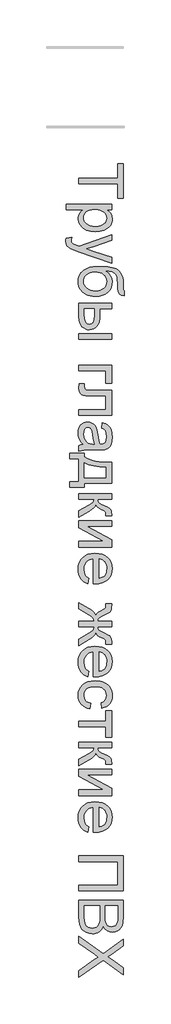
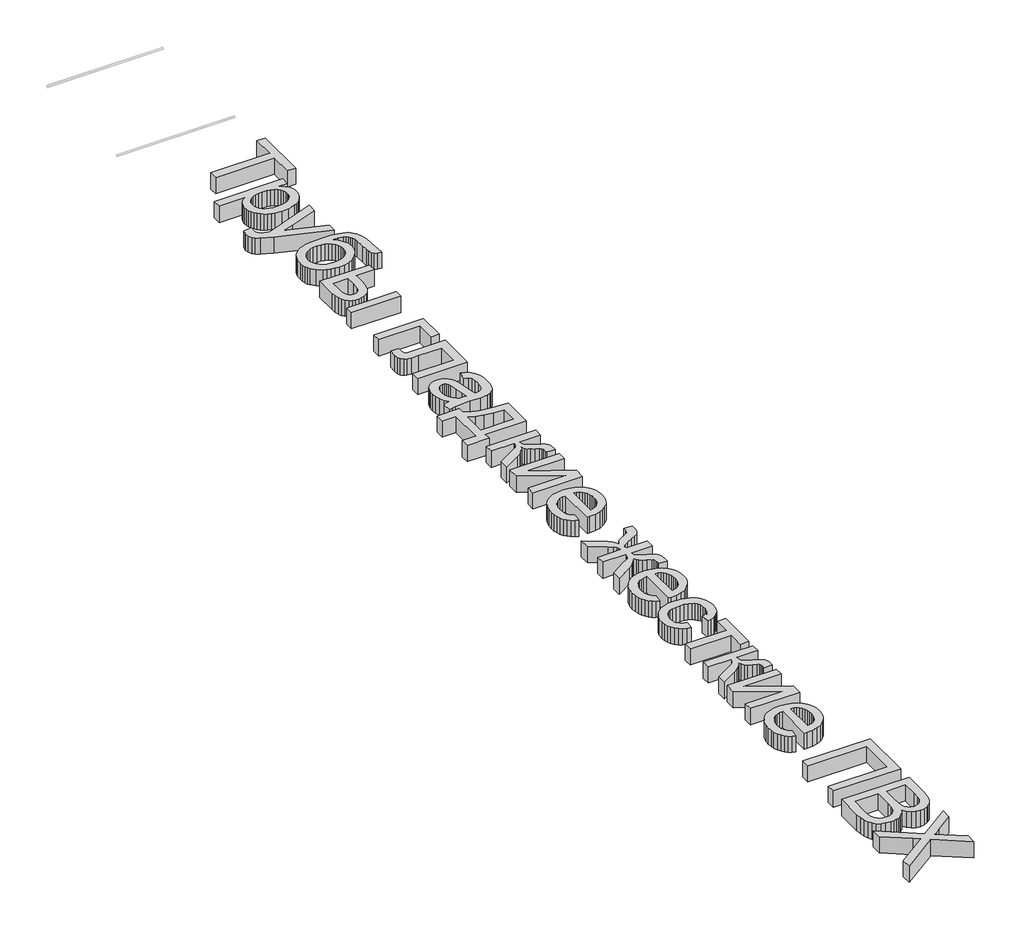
# One storey, part 31 of 33: 1 proxy.
"""IFC4 building model written with IfcOpenShell, lengths in millimetres."""

from ifc_helpers import new_model, si_unit, origin, origin_with_axes, place, context, project, spatial, polyline, outline, extrude, element, save

model = new_model("IFC4")

# Units and contexts
model_context = context("Model", 3, world=origin())
ifc_project = project(units=[si_unit("LENGTHUNIT", "METRE", prefix="MILLI")], contexts=[model_context])

# Site, building, storey
site = spatial("IfcSite", under=ifc_project)
building = spatial("IfcBuilding", under=site)
storey = spatial("IfcBuildingStorey", under=building, Name="Уровень 1", Elevation=0.0)

# Proxy
placement = place(None, origin())
element("IfcBuildingElementProxy", 1, Name="Надпись на модели 1", ObjectType="Надпись на модели 1", at=placement, inside=storey, context=model_context, shape_type="SweptSolid", body=[
    extrude(outline(polyline([(108024.4625724, -714.6440607), (108541.3856493, -714.6440607), (108541.3856493, -520.7979069), (108615.2318032, -520.7979069), (108615.2318032, -982.3363684), (108541.3856493, -982.3363684), (108541.3856493, -788.4902146), (108024.4625724, -788.4902146), (108024.4625724, -714.6440607)])), origin_with_axes(), (0.0, 0.0, 1.0), 150.0),
    extrude(outline(polyline([(107858.3087262, -1056.1825223), (108458.3087262, -1056.1825223), (108458.3087262, -1130.0286761), (108385.9048801, -1130.0286761), (108421.6200243, -1154.1152146), (108447.1308416, -1181.0863684), (108462.437332, -1212.5286761), (108467.5394955, -1250.0286761), (108465.7546397, -1275.7828829), (108460.4000724, -1299.96858), (108451.4757936, -1322.5857675), (108438.9818032, -1343.6344454), (108423.2426205, -1362.6548781), (108404.5827647, -1379.18733), (108383.0022359, -1393.2318011), (108358.5010339, -1404.7882915), (108304.0899762, -1420.2570415), (108244.702957, -1425.4132915), (108181.5479089, -1419.5899742), (108152.4718873, -1412.3108276), (108125.0635339, -1402.1200223), (108100.0394955, -1389.1572819), (108078.1164186, -1373.56233), (108059.2943032, -1355.3351665), (108043.5731493, -1334.4757915), (108031.1738104, -1312.007342), (108022.3171397, -1288.952955), (108017.0031373, -1265.3126305), (108015.2318032, -1241.0863684), (108019.9733897, -1207.1380511), (108034.1981493, -1176.8315607), (108055.6705051, -1150.8880511), (108082.1548801, -1130.0286761), (107858.3087262, -1130.0286761), (107858.3087262, -1056.1825223)]), holes=[polyline([(108237.9241109, -1130.0286761), (108202.3351686, -1132.0253708), (108171.7221878, -1138.015455), (108146.0851686, -1147.9989285), (108125.4241109, -1161.9757915), (108109.5226686, -1178.8012122), (108098.1644955, -1197.3303588), (108091.3495916, -1217.5632314), (108089.077957, -1239.49983), (108091.4307214, -1261.7519333), (108098.4890147, -1282.3543973), (108110.2528368, -1301.3072218), (108126.7221878, -1318.6104069), (108148.1314426, -1333.0289766), (108174.7149762, -1343.327955), (108206.4727887, -1349.507342), (108243.4048801, -1351.5671377), (108278.687332, -1349.5569213), (108309.2462262, -1343.5262723), (108335.0815628, -1333.4751906), (108356.1933416, -1319.4036761), (108372.5995916, -1302.5376906), (108384.3183416, -1284.1031954), (108391.3495916, -1264.1001906), (108393.6933416, -1242.5286761), (108391.2008537, -1221.0247699), (108383.7233897, -1200.7918973), (108371.2609498, -1181.8300583), (108353.8135339, -1164.1392531), (108331.6155171, -1149.2158756), (108304.9012743, -1138.5563204), (108273.6708056, -1132.1605872), (108237.9241109, -1130.0286761)])]), origin_with_axes(), (0.0, 0.0, 1.0), 150.0),
    extrude(outline(polyline([(107858.3087262, -1508.4902146), (107929.4144955, -1499.2594454), (107922.9241109, -1536.7594454), (107924.9613705, -1556.4830031), (107931.0731493, -1571.8075223), (107940.8267551, -1583.7426184), (107953.7894955, -1593.2979069), (108008.1644955, -1613.4902146), (108026.0491109, -1619.2594454), (108458.3087262, -1462.3363684), (108458.3087262, -1540.2209838), (108217.4433416, -1623.4421377), (108121.0971878, -1652.4325223), (108206.1933416, -1681.4229069), (108458.3087262, -1766.9517531), (108458.3087262, -1844.2594454), (108014.077957, -1693.24983), (107917.7318032, -1654.0190607), (107886.9745916, -1633.9349261), (107865.6644955, -1611.1825223), (107853.2245916, -1584.7522338), (107849.077957, -1553.6344454), (107851.3856493, -1532.2522338), (107858.3087262, -1508.4902146)])), origin_with_axes(), (0.0, 0.0, 1.0), 150.0),
    extrude(outline(polyline([(108624.4625724, -2210.0286761), (108624.4625724, -2274.6440607), (108589.3604089, -2267.6488684), (108566.8423801, -2255.6055992), (108553.5190628, -2238.9108877), (108546.0010339, -2217.9613684), (108542.5394955, -2183.8147338), (108541.3856493, -2127.5286761), (108537.1308416, -2052.4385319), (108531.812332, -2025.5349862), (108524.3664186, -2005.7257915), (108514.5767551, -1990.608604), (108502.2269955, -1977.78108), (108487.3171397, -1967.2432194), (108469.8471878, -1958.9950223), (108426.9745916, -1947.9433396), (108373.3568032, -1943.2017531), (108414.6068032, -1972.8952627), (108444.0298801, -2007.1680992), (108461.6620916, -2046.0563204), (108467.5394955, -2089.5959838), (108463.8030171, -2129.827354), (108452.593582, -2166.4349261), (108433.9111902, -2199.4187002), (108407.7558416, -2228.7786761), (108375.227296, -2252.8832434), (108337.4253128, -2270.1007915), (108294.3498921, -2280.4313204), (108246.0010339, -2283.87483), (108209.0148561, -2282.1665968), (108175.5082455, -2277.0418973), (108145.4812022, -2268.5007314), (108118.9337262, -2256.5430992), (108074.9613705, -2226.6693011), (108042.2750724, -2191.7113684), (108030.4436421, -2171.2666569), (108021.9926205, -2147.4325223), (108016.9220075, -2120.2089646), (108015.2318032, -2089.5959838), (108017.4087863, -2054.1828228), (108023.9397359, -2022.9433396), (108034.8246517, -1995.8775343), (108050.0635339, -1972.9854069), (108068.6963464, -1953.3925583), (108089.7630532, -1936.2245896), (108113.2636541, -1921.4815006), (108139.1981493, -1909.1632915), (108171.3841469, -1899.4457434), (108213.6392551, -1892.5046377), (108265.9634738, -1888.3399742), (108328.3568032, -1886.9517531), (108406.1107094, -1890.4538564), (108470.0455051, -1900.9601665), (108520.1611902, -1918.4706833), (108540.0368663, -1929.8525193), (108556.4577647, -1942.9854069), (108582.1714065, -1974.7657555), (108600.5382936, -2014.0731473), (108611.5584258, -2060.9075824), (108615.2318032, -2115.2690607), (108616.890457, -2197.4805992), (108619.6128128, -2205.5214646), (108624.4625724, -2210.0286761)]), holes=[polyline([(108248.3087262, -2210.0286761), (108278.8090267, -2208.0274742), (108306.4156974, -2202.0238684), (108331.1287383, -2192.0178588), (108352.9481493, -2178.0094454), (108370.774171, -2160.359205), (108383.5070436, -2139.4277146), (108391.1467671, -2115.2149742), (108393.6933416, -2087.7209838), (108391.0025363, -2059.0280752), (108382.9301205, -2033.8147338), (108369.476094, -2012.0809598), (108350.640457, -1993.8267531), (108327.3066229, -1979.3766329), (108300.3580051, -1969.0551184), (108269.7946037, -1962.8622098), (108235.6164186, -1960.7979069), (108202.1503729, -1963.0785559), (108172.8580051, -1969.9205031), (108147.7393152, -1981.3237482), (108126.7943032, -1997.2882915), (108110.2934017, -2016.5971857), (108098.5070436, -2038.0334838), (108091.4352287, -2061.5971857), (108089.077957, -2087.2882915), (108091.80482, -2113.3309598), (108099.9854089, -2136.7955031), (108113.6197238, -2157.6819213), (108132.7077647, -2175.9902146), (108156.2940027, -2190.8820415), (108183.4229089, -2201.5190607), (108214.0944835, -2207.9012723), (108248.3087262, -2210.0286761)])]), origin_with_axes(), (0.0, 0.0, 1.0), 150.0),
    extrude(outline(polyline([(108458.3087262, -2376.1825223), (108458.3087262, -2450.0286761), (108301.3856493, -2450.0286761), (108301.3856493, -2541.3267531), (108299.0734498, -2583.3384718), (108292.1368512, -2620.2390127), (108280.5758537, -2652.0283756), (108264.390457, -2678.7065607), (108244.1395556, -2699.8138324), (108220.3820436, -2714.890455), (108193.117921, -2723.9364285), (108162.3471878, -2726.9517531), (108134.8937623, -2724.4232074), (108109.5046397, -2716.8375704), (108086.17982, -2704.194842), (108064.9193032, -2686.4950223), (108047.2194835, -2663.242318), (108034.5767551, -2633.9409357), (108026.9911181, -2598.5908756), (108024.4625724, -2557.1921377), (108024.4625724, -2376.1825223), (108458.3087262, -2376.1825223)]), holes=[polyline([(108098.3087262, -2450.0286761), (108098.3087262, -2525.8940607), (108102.1849282, -2584.7041569), (108107.0301806, -2606.7263925), (108113.8135339, -2623.8267531), (108122.6521758, -2636.6362482), (108133.6632936, -2645.7858877), (108146.8468873, -2651.2756713), (108162.202957, -2653.1055992), (108186.3255532, -2647.6789165), (108207.6356493, -2631.3988684), (108216.343582, -2617.2687603), (108222.5635339, -2596.5851665), (108227.5394955, -2535.5575223), (108227.5394955, -2450.0286761), (108098.3087262, -2450.0286761)])]), origin_with_axes(), (0.0, 0.0, 1.0), 150.0),
    extrude(outline(polyline([(108458.3087262, -2782.3363684), (108458.3087262, -2856.1825223), (108024.4625724, -2856.1825223), (108024.4625724, -2782.3363684), (108458.3087262, -2782.3363684)])), origin_with_axes(), (0.0, 0.0, 1.0), 150.0),
    extrude(outline(polyline([(108458.3087262, -3197.7209838), (108458.3087262, -3437.7209838), (108384.4625724, -3437.7209838), (108384.4625724, -3271.5671377), (108024.4625724, -3271.5671377), (108024.4625724, -3197.7209838), (108458.3087262, -3197.7209838)])), origin_with_axes(), (0.0, 0.0, 1.0), 150.0),
    extrude(outline(polyline([(108458.3087262, -3530.0286761), (108458.3087262, -3862.3363684), (108024.8952647, -3862.3363684), (108024.8952647, -3788.4902146), (108384.4625724, -3788.4902146), (108384.4625724, -3603.87483), (108177.4914186, -3603.87483), (108117.4193032, -3602.6308396), (108082.0106493, -3598.8988684), (108060.3940628, -3589.577955), (108041.6981493, -3571.5671377), (108028.7714666, -3544.2354069), (108024.4625724, -3506.9517531), (108028.2125724, -3446.9517531), (108098.3087262, -3446.9517531), (108098.3087262, -3479.9805992), (108102.8519955, -3513.3700223), (108108.7293993, -3521.7173781), (108117.2750724, -3526.7113684), (108181.6741109, -3530.0286761), (108458.3087262, -3530.0286761)])), origin_with_axes(), (0.0, 0.0, 1.0), 150.0),
    extrude(outline(polyline([(108079.8471878, -4250.0286761), (108049.5947839, -4214.7462242), (108029.7991109, -4178.4180992), (108018.8736301, -4140.2149742), (108015.2318032, -4099.3075223), (108017.422308, -4066.4274141), (108023.9938224, -4037.5947819), (108034.9463464, -4012.8096256), (108050.2798801, -3992.0719454), (108069.0208657, -3975.6972458), (108090.1957455, -3964.0010319), (108113.8045195, -3956.9833035), (108139.8471878, -3954.6440607), (108170.4601686, -3958.1777146), (108198.2606493, -3968.7786761), (108222.0587262, -3985.1308396), (108240.6644955, -4005.9180992), (108254.7269955, -4030.3471857), (108264.8952647, -4057.62483), (108276.0010339, -4121.5190607), (108287.6837262, -4197.0238684), (108301.3856493, -4249.5959838), (108317.827957, -4250.0286761), (108350.7846878, -4244.9445415), (108362.9902166, -4238.5893732), (108372.3471878, -4229.6921377), (108381.6861301, -4214.3135319), (108388.3568032, -4195.5815607), (108393.6933416, -4148.0575223), (108390.1416589, -4104.0671377), (108379.4866109, -4073.3459838), (108359.781082, -4052.3964646), (108329.077957, -4037.7209838), (108338.3087262, -3963.87483), (108378.6933416, -3976.6933396), (108410.4241109, -3995.8219454), (108434.6909378, -4023.0455031), (108452.6837262, -4060.1488684), (108463.8255532, -4105.5274742), (108467.5394955, -4157.5767531), (108464.2582455, -4207.4986281), (108454.4144955, -4247.0719454), (108439.6128128, -4276.9096857), (108421.4577647, -4297.62483), (108399.0118512, -4311.3628107), (108371.3375724, -4320.2690607), (108306.7221878, -4323.87483), (108214.8471878, -4323.87483), (108086.5539186, -4327.62483), (108054.8411782, -4333.1777146), (108024.4625724, -4342.3363684), (108024.4625724, -4268.4902146), (108050.1356493, -4256.6632915), (108079.8471878, -4250.0286761)]), holes=[polyline([(108227.5394955, -4250.0286761), (108215.2438224, -4200.4132915), (108204.8952647, -4130.8940607), (108192.9241109, -4067.3604069), (108184.7390147, -4050.827955), (108173.452957, -4038.5863684), (108159.9313224, -4031.0142531), (108145.0394955, -4028.4902146), (108123.0803609, -4033.9890127), (108105.0875724, -4050.4854069), (108093.0803609, -4077.6188204), (108089.077957, -4115.0286761), (108093.4950243, -4154.6921377), (108106.7462262, -4189.7402146), (108126.2714666, -4218.1536761), (108149.5106493, -4237.9132915), (108173.452957, -4246.6753107), (108206.6260339, -4249.5959838), (108227.5394955, -4250.0286761)])]), origin_with_axes(), (0.0, 0.0, 1.0), 150.0),
    extrude(outline(polyline([(108458.3087262, -4490.0286761), (108458.3087262, -4766.9517531), (108098.3087262, -4766.9517531), (108098.3087262, -4822.3363684), (107904.4625724, -4822.3363684), (107904.4625724, -4748.4902146), (108024.4625724, -4748.4902146), (108024.4625724, -4443.87483), (107904.4625724, -4443.87483), (107904.4625724, -4370.0286761), (108098.3087262, -4370.0286761), (108098.3087262, -4416.1825223), (108126.1768152, -4434.2158756), (108158.9397359, -4449.734205), (108196.5974883, -4462.7375103), (108239.1500724, -4473.2257915), (108338.9397359, -4486.6572819), (108458.3087262, -4490.0286761)]), holes=[polyline([(108384.4625724, -4554.6440607), (108294.0479089, -4548.5863684), (108216.2173801, -4537.3363684), (108150.9709859, -4520.8940607), (108098.3087262, -4499.2594454), (108098.3087262, -4693.1055992), (108384.4625724, -4693.1055992), (108384.4625724, -4554.6440607)])]), origin_with_axes(), (0.0, 0.0, 1.0), 150.0),
    extrude(outline(polyline([(108458.3087262, -4905.4132915), (108458.3087262, -4979.2594454), (108273.6933416, -4979.2594454), (108277.0106493, -5009.2955031), (108286.9625724, -5028.7305992), (108312.9241109, -5045.9301184), (108364.2702647, -5069.2594454), (108406.2594474, -5088.0635319), (108430.9769955, -5102.93733), (108444.4445436, -5116.8195415), (108452.6837262, -5132.6488684), (108456.9024762, -5154.5539165), (108458.3087262, -5186.6632915), (108458.3087262, -5200.7979069), (108384.0298801, -5200.7979069), (108384.4625724, -5180.8940607), (108382.515457, -5157.8171377), (108376.6741109, -5144.8363684), (108360.4120916, -5134.3075223), (108328.0683416, -5119.4517531), (108295.6705051, -5103.8568011), (108275.4962262, -5089.6680992), (108262.0286782, -5072.4866088), (108249.7510339, -5047.9132915), (108239.3574041, -5071.3147338), (108221.0130532, -5094.49983), (108194.7179811, -5117.46858), (108160.4721878, -5140.2209838), (108024.4625724, -5219.2594454), (108024.4625724, -5135.3171377), (108157.5875724, -5057.8652146), (108193.0142551, -5036.9517531), (108213.9096878, -5018.9229069), (108224.1320436, -5000.7137723), (108227.5394955, -4979.2594454), (108024.4625724, -4979.2594454), (108024.4625724, -4905.4132915), (108458.3087262, -4905.4132915)])), origin_with_axes(), (0.0, 0.0, 1.0), 150.0),
    extrude(outline(polyline([(108458.3087262, -5265.4132915), (108458.3087262, -5339.2594454), (108127.4433416, -5339.2594454), (108458.3087262, -5520.7017531), (108458.3087262, -5616.1825223), (108024.4625724, -5616.1825223), (108024.4625724, -5542.3363684), (108353.3087262, -5542.3363684), (108024.4625724, -5362.0479069), (108024.4625724, -5265.4132915), (108458.3087262, -5265.4132915)])), origin_with_axes(), (0.0, 0.0, 1.0), 150.0),
    extrude(outline(polyline([(108153.6933416, -6030.7017531), (108144.4625724, -6103.1055992), (108115.4631734, -6092.0043372), (108089.9072839, -6077.0178588), (108067.7949041, -6058.1461641), (108049.1260339, -6035.3892531), (108034.297308, -6008.9815006), (108023.7053609, -5979.1572819), (108017.3501926, -5945.9165968), (108015.2318032, -5909.2594454), (108018.8871517, -5863.4391329), (108029.8531974, -5822.6128107), (108048.1299402, -5786.780479), (108073.7173801, -5755.9421377), (108105.9033777, -5731.1434598), (108143.9757936, -5713.4301184), (108187.9346277, -5702.8021136), (108237.7798801, -5699.2594454), (108289.3153368, -5702.8381713), (108334.7390147, -5713.5743492), (108374.0509137, -5731.467979), (108407.2510339, -5756.5190607), (108433.6272359, -5787.2762723), (108452.4673801, -5822.2882915), (108463.7714666, -5861.5551184), (108467.5394955, -5905.0767531), (108463.7804811, -5947.1966449), (108452.5034378, -5985.2870896), (108433.7083657, -6019.3480872), (108407.3952647, -6049.3796377), (108374.2672599, -6073.8943612), (108335.0274762, -6091.4048781), (108289.6759137, -6101.9111881), (108238.2125724, -6105.4132915), (108218.3087262, -6104.9805992), (108218.3087262, -5773.1055992), (108188.8405772, -5777.382943), (108163.0322839, -5785.8880511), (108140.8838464, -5798.6209237), (108122.3952647, -5815.5815607), (108107.8189426, -5835.8324622), (108097.4072839, -5858.4361281), (108091.1602887, -5883.3925583), (108089.077957, -5910.7017531), (108092.9361301, -5950.0046377), (108104.5106493, -5983.1055992), (108124.5226686, -6010.0046377), (108153.6933416, -6030.7017531)]), holes=[polyline([(108292.1548801, -5773.1055992), (108292.1548801, -6031.5671377), (108331.1693032, -6021.5791569), (108346.5118512, -6012.9884117), (108359.077957, -6001.99983), (108374.2221878, -5981.8616088), (108385.0394955, -5958.9469454), (108391.5298801, -5933.2558396), (108393.6933416, -5904.7882915), (108391.9670796, -5878.8222458), (108386.7882936, -5855.0106473), (108378.1569835, -5833.3534958), (108366.0731493, -5813.8507915), (108351.0956854, -5797.4851064), (108333.7834859, -5785.2390127), (108314.1365508, -5777.1125103), (108292.1548801, -5773.1055992)])]), origin_with_axes(), (0.0, 0.0, 1.0), 150.0),
    extrude(outline(polyline([(108458.3087262, -6677.7209838), (108273.6933416, -6677.7209838), (108277.4974282, -6703.7726665), (108288.9096878, -6720.7738684), (108316.2594474, -6737.1981473), (108367.8760339, -6761.5190607), (108417.0947839, -6786.9397338), (108433.1855291, -6798.811729), (108443.5971878, -6810.12483), (108454.6308416, -6838.2858877), (108458.3087262, -6879.2113684), (108458.3087262, -6908.4902146), (108384.0298801, -6908.4902146), (108384.4625724, -6888.1536761), (108382.5515147, -6863.7786761), (108376.8183416, -6850.0767531), (108360.8087262, -6839.1512723), (108328.9337262, -6823.6825223), (108296.8423801, -6807.7269934), (108276.4337262, -6793.0334838), (108262.4793993, -6775.0587242), (108249.7510339, -6749.2594454), (108239.3574041, -6773.5533156), (108221.0130532, -6797.5406954), (108194.7179811, -6821.2215848), (108160.4721878, -6844.5959838), (108024.4625724, -6926.9517531), (108024.4625724, -6842.2882915), (108158.5971878, -6761.2305992), (108193.8075243, -6739.0731473), (108214.3423801, -6719.9084838), (108224.2402166, -6700.5274742), (108227.5394955, -6677.7209838), (108024.4625724, -6677.7209838), (108024.4625724, -6603.87483), (108227.5394955, -6603.87483), (108224.312332, -6581.2486281), (108214.6308416, -6561.8315607), (108194.2402166, -6542.5226665), (108158.8856493, -6520.2209838), (108024.4625724, -6439.1632915), (108024.4625724, -6354.6440607), (108160.4721878, -6436.7113684), (108194.7179811, -6460.2840848), (108221.0130532, -6484.1272338), (108239.3574041, -6508.2408156), (108249.7510339, -6532.62483), (108263.8856493, -6504.4277146), (108279.1741109, -6486.1825223), (108306.0370916, -6469.5959838), (108354.8952647, -6446.37483), (108371.1572839, -6436.9637723), (108379.8471878, -6426.9036761), (108383.6332455, -6413.5983877), (108384.8952647, -6395.0286761), (108384.4625724, -6373.1055992), (108458.3087262, -6373.1055992), (108458.3087262, -6384.2113684), (108457.1548801, -6423.40608), (108453.6933416, -6448.9709838), (108446.4818032, -6466.7474261), (108434.077957, -6482.5767531), (108410.0274762, -6499.4156954), (108367.8760339, -6520.2209838), (108316.890457, -6544.2894934), (108289.4144955, -6560.5334838), (108277.6236301, -6577.5346857), (108273.6933416, -6603.87483), (108458.3087262, -6603.87483), (108458.3087262, -6677.7209838)])), origin_with_axes(), (0.0, 0.0, 1.0), 150.0),
    extrude(outline(polyline([(108153.6933416, -7267.62483), (108144.4625724, -7340.0286761), (108115.4631734, -7328.9274141), (108089.9072839, -7313.9409357), (108067.7949041, -7295.069241), (108049.1260339, -7272.31233), (108034.297308, -7245.9045776), (108023.7053609, -7216.0803588), (108017.3501926, -7182.8396737), (108015.2318032, -7146.1825223), (108018.8871517, -7100.3622098), (108029.8531974, -7059.5358877), (108048.1299402, -7023.7035559), (108073.7173801, -6992.8652146), (108105.9033777, -6968.0665367), (108143.9757936, -6950.3531954), (108187.9346277, -6939.7251906), (108237.7798801, -6936.1825223), (108289.3153368, -6939.7612482), (108334.7390147, -6950.4974261), (108374.0509137, -6968.3910559), (108407.2510339, -6993.4421377), (108433.6272359, -7024.1993492), (108452.4673801, -7059.2113684), (108463.7714666, -7098.4781954), (108467.5394955, -7141.99983), (108463.7804811, -7184.1197218), (108452.5034378, -7222.2101665), (108433.7083657, -7256.2711641), (108407.3952647, -7286.3027146), (108374.2672599, -7310.8174381), (108335.0274762, -7328.327955), (108289.6759137, -7338.8342651), (108238.2125724, -7342.3363684), (108218.3087262, -7341.9036761), (108218.3087262, -7010.0286761), (108188.8405772, -7014.3060199), (108163.0322839, -7022.8111281), (108140.8838464, -7035.5440006), (108122.3952647, -7052.5046377), (108107.8189426, -7072.7555391), (108097.4072839, -7095.359205), (108091.1602887, -7120.3156353), (108089.077957, -7147.62483), (108092.9361301, -7186.9277146), (108104.5106493, -7220.0286761), (108124.5226686, -7246.9277146), (108153.6933416, -7267.62483)]), holes=[polyline([(108292.1548801, -7010.0286761), (108292.1548801, -7268.4902146), (108331.1693032, -7258.5022338), (108346.5118512, -7249.9114886), (108359.077957, -7238.9229069), (108374.2221878, -7218.7846857), (108385.0394955, -7195.8700223), (108391.5298801, -7170.1789165), (108393.6933416, -7141.7113684), (108391.9670796, -7115.7453228), (108386.7882936, -7091.9337242), (108378.1569835, -7070.2765728), (108366.0731493, -7050.7738684), (108351.0956854, -7034.4081833), (108333.7834859, -7022.1620896), (108314.1365508, -7014.0355872), (108292.1548801, -7010.0286761)])]), origin_with_axes(), (0.0, 0.0, 1.0), 150.0),
    extrude(outline(polyline([(108181.3856493, -7693.1055992), (108172.1548801, -7766.9517531), (108137.3096277, -7758.9199021), (108106.4757936, -7746.3628107), (108079.6533777, -7729.280479), (108056.8423801, -7707.6729069), (108038.6377527, -7682.4505511), (108025.6344474, -7654.5238684), (108017.8324642, -7623.8928588), (108015.2318032, -7590.5575223), (108018.8601085, -7549.1407555), (108029.7450243, -7512.0058396), (108047.8865508, -7479.1527747), (108073.2846878, -7450.5815607), (108105.461671, -7427.4550583), (108143.9397359, -7410.9361281), (108188.7188825, -7401.0247699), (108239.7991109, -7397.7209838), (108305.5142551, -7403.3640127), (108335.08607, -7410.4177987), (108362.4673801, -7420.2930992), (108387.1083056, -7433.0575223), (108408.4589666, -7448.7786761), (108426.5193633, -7467.4565607), (108441.2894955, -7489.0911761), (108452.7738705, -7512.7044574), (108460.9769955, -7537.3183396), (108465.8988705, -7562.9328228), (108467.5394955, -7589.5479069), (108465.2858897, -7622.3108276), (108458.5250724, -7651.9457434), (108447.2570436, -7678.4526545), (108431.4818032, -7701.8315607), (108411.5599282, -7721.6858276), (108387.8519955, -7737.6188204), (108360.3580051, -7749.6305391), (108329.077957, -7757.7209838), (108319.8471878, -7683.87483), (108352.0647359, -7670.4793973), (108375.1596878, -7649.6200223), (108389.0599282, -7622.4505511), (108393.6933416, -7590.12483), (108391.4126926, -7565.0331833), (108384.5707455, -7542.4024742), (108373.1675003, -7522.2327026), (108357.202957, -7504.5238684), (108336.3075243, -7490.1052987), (108310.1116109, -7479.8063204), (108278.6152166, -7473.6269333), (108241.8183416, -7471.5671377), (108204.4670796, -7473.5818612), (108172.6056012, -7479.6260319), (108146.2339065, -7489.6996497), (108125.3519955, -7503.8027146), (108109.4821037, -7521.1599862), (108098.1464666, -7540.9962242), (108091.3450844, -7563.3114285), (108089.077957, -7588.1055992), (108094.7390147, -7626.3447819), (108101.8153368, -7642.881741), (108111.7221878, -7657.6969454), (108124.5677407, -7670.3757314), (108140.4601686, -7680.5034357), (108159.3994714, -7688.0800583), (108181.3856493, -7693.1055992)])), origin_with_axes(), (0.0, 0.0, 1.0), 150.0),
    extrude(outline(polyline([(108458.3087262, -7794.6440607), (108458.3087262, -8145.4132915), (108384.4625724, -8145.4132915), (108384.4625724, -8006.9517531), (108024.4625724, -8006.9517531), (108024.4625724, -7933.1055992), (108384.4625724, -7933.1055992), (108384.4625724, -7794.6440607), (108458.3087262, -7794.6440607)])), origin_with_axes(), (0.0, 0.0, 1.0), 150.0),
    extrude(outline(polyline([(108458.3087262, -8210.0286761), (108458.3087262, -8283.87483), (108273.6933416, -8283.87483), (108277.0106493, -8313.9108877), (108286.9625724, -8333.3459838), (108312.9241109, -8350.5455031), (108364.2702647, -8373.87483), (108406.2594474, -8392.6789165), (108430.9769955, -8407.5527146), (108444.4445436, -8421.4349261), (108452.6837262, -8437.2642531), (108456.9024762, -8459.1693011), (108458.3087262, -8491.2786761), (108458.3087262, -8505.4132915), (108384.0298801, -8505.4132915), (108384.4625724, -8485.5094454), (108382.515457, -8462.4325223), (108376.6741109, -8449.4517531), (108360.4120916, -8438.9229069), (108328.0683416, -8424.0671377), (108295.6705051, -8408.4721857), (108275.4962262, -8394.2834838), (108262.0286782, -8377.1019934), (108249.7510339, -8352.5286761), (108239.3574041, -8375.9301184), (108221.0130532, -8399.1152146), (108194.7179811, -8422.0839646), (108160.4721878, -8444.8363684), (108024.4625724, -8523.87483), (108024.4625724, -8439.9325223), (108157.5875724, -8362.4805992), (108193.0142551, -8341.5671377), (108213.9096878, -8323.5382915), (108224.1320436, -8305.3291569), (108227.5394955, -8283.87483), (108024.4625724, -8283.87483), (108024.4625724, -8210.0286761), (108458.3087262, -8210.0286761)])), origin_with_axes(), (0.0, 0.0, 1.0), 150.0),
    extrude(outline(polyline([(108458.3087262, -8570.0286761), (108458.3087262, -8643.87483), (108127.4433416, -8643.87483), (108458.3087262, -8825.3171377), (108458.3087262, -8920.7979069), (108024.4625724, -8920.7979069), (108024.4625724, -8846.9517531), (108353.3087262, -8846.9517531), (108024.4625724, -8666.6632915), (108024.4625724, -8570.0286761), (108458.3087262, -8570.0286761)])), origin_with_axes(), (0.0, 0.0, 1.0), 150.0),
    extrude(outline(polyline([(108153.6933416, -9335.3171377), (108144.4625724, -9407.7209838), (108115.4631734, -9396.6197218), (108089.9072839, -9381.6332434), (108067.7949041, -9362.7615487), (108049.1260339, -9340.0046377), (108034.297308, -9313.5968853), (108023.7053609, -9283.7726665), (108017.3501926, -9250.5319814), (108015.2318032, -9213.87483), (108018.8871517, -9168.0545175), (108029.8531974, -9127.2281954), (108048.1299402, -9091.3958636), (108073.7173801, -9060.5575223), (108105.9033777, -9035.7588444), (108143.9757936, -9018.0455031), (108187.9346277, -9007.4174982), (108237.7798801, -9003.87483), (108289.3153368, -9007.4535559), (108334.7390147, -9018.1897338), (108374.0509137, -9036.0833636), (108407.2510339, -9061.1344454), (108433.6272359, -9091.8916569), (108452.4673801, -9126.9036761), (108463.7714666, -9166.1705031), (108467.5394955, -9209.6921377), (108463.7804811, -9251.8120295), (108452.5034378, -9289.9024742), (108433.7083657, -9323.9634718), (108407.3952647, -9353.9950223), (108374.2672599, -9378.5097458), (108335.0274762, -9396.0202627), (108289.6759137, -9406.5265728), (108238.2125724, -9410.0286761), (108218.3087262, -9409.5959838), (108218.3087262, -9077.7209838), (108188.8405772, -9081.9983276), (108163.0322839, -9090.5034357), (108140.8838464, -9103.2363083), (108122.3952647, -9120.1969454), (108107.8189426, -9140.4478468), (108097.4072839, -9163.0515127), (108091.1602887, -9188.007943), (108089.077957, -9215.3171377), (108092.9361301, -9254.6200223), (108104.5106493, -9287.7209838), (108124.5226686, -9314.6200223), (108153.6933416, -9335.3171377)]), holes=[polyline([(108292.1548801, -9077.7209838), (108292.1548801, -9336.1825223), (108331.1693032, -9326.1945415), (108346.5118512, -9317.6037963), (108359.077957, -9306.6152146), (108374.2221878, -9286.4769934), (108385.0394955, -9263.56233), (108391.5298801, -9237.8712242), (108393.6933416, -9209.4036761), (108391.9670796, -9183.4376305), (108386.7882936, -9159.6260319), (108378.1569835, -9137.9688805), (108366.0731493, -9118.4661761), (108351.0956854, -9102.100491), (108333.7834859, -9089.8543973), (108314.1365508, -9081.7278949), (108292.1548801, -9077.7209838)])]), origin_with_axes(), (0.0, 0.0, 1.0), 150.0),
    extrude(outline(polyline([(108615.2318032, -9723.87483), (108615.2318032, -10185.4132915), (108024.4625724, -10185.4132915), (108024.4625724, -10111.5671377), (108541.3856493, -10111.5671377), (108541.3856493, -9797.7209838), (108024.4625724, -9797.7209838), (108024.4625724, -9723.87483), (108615.2318032, -9723.87483)])), origin_with_axes(), (0.0, 0.0, 1.0), 150.0),
    extrude(outline(polyline([(108024.4625724, -10314.6440607), (108615.2318032, -10314.6440607), (108615.2318032, -10540.0767531), (108610.8868512, -10602.077955), (108597.8519955, -10650.4854069), (108575.8027166, -10687.5887723), (108561.2759738, -10702.7600463), (108544.4144955, -10715.6777146), (108507.4914186, -10733.3640127), (108468.8375724, -10739.2594454), (108433.2666589, -10734.3015127), (108399.8231493, -10719.4277146), (108370.562332, -10694.5298781), (108347.5394955, -10659.49983), (108338.0382936, -10681.787991), (108325.6885339, -10701.3447819), (108310.4902166, -10718.1702026), (108292.4433416, -10732.2642531), (108272.0977887, -10743.4015728), (108250.0034378, -10751.3568011), (108226.1602887, -10756.1299381), (108200.5683416, -10757.7209838), (108159.3724282, -10753.3760319), (108121.1693032, -10740.3411761), (108088.6813224, -10720.8880511), (108064.6308416, -10697.2882915), (108047.2149762, -10668.3880511), (108034.6308416, -10633.0334838), (108027.0046397, -10590.0707434), (108024.4625724, -10538.3459838), (108024.4625724, -10314.6440607)]), holes=[polyline([(108375.2318032, -10388.4902146), (108375.2318032, -10523.3459838), (108376.8183416, -10570.5094454), (108381.577957, -10602.0959838), (108392.5214666, -10629.6620896), (108408.9096878, -10649.4757915), (108430.4902166, -10661.4289165), (108457.0106493, -10665.4132915), (108482.7558416, -10661.6993492), (108505.1837262, -10650.5575223), (108522.6897359, -10632.4926184), (108533.6693032, -10608.0094454), (108539.4565628, -10570.43733), (108541.3856493, -10513.1055992), (108541.3856493, -10388.4902146), (108375.2318032, -10388.4902146)]), polyline([(108098.3087262, -10388.4902146), (108098.3087262, -10539.9325223), (108101.1933416, -10594.7402146), (108107.593582, -10620.1789165), (108117.2750724, -10641.1104069), (108131.1392551, -10658.1296377), (108150.0875724, -10671.8315607), (108173.2726686, -10680.8640127), (108199.8471878, -10683.87483), (108230.7125724, -10680.3411761), (108257.2510339, -10669.7402146), (108278.0022359, -10651.2245896), (108291.5058416, -10623.9469454), (108298.9156974, -10585.3111281), (108301.3856493, -10532.7209838), (108301.3856493, -10388.4902146), (108098.3087262, -10388.4902146)])]), origin_with_axes(), (0.0, 0.0, 1.0), 150.0),
    extrude(outline(polyline([(108024.4625724, -10794.6440607), (108346.3856493, -11022.3844454), (108615.2318032, -10831.5671377), (108615.2318032, -10920.12483), (108463.9337262, -11027.5767531), (108425.6043993, -11053.2137723), (108404.9433416, -11063.7786761), (108464.9433416, -11106.1825223), (108615.2318032, -11212.4805992), (108615.2318032, -11302.3363684), (108345.5202647, -11111.5190607), (108024.4625724, -11339.2594454), (108024.4625724, -11250.7017531), (108238.5010339, -11098.9709838), (108282.9241109, -11067.3844454), (108234.1741109, -11032.62483), (108024.4625724, -10884.49983), (108024.4625724, -10794.6440607)])), origin_with_axes(), (0.0, 0.0, 1.0), 150.0),
])

save(model, "model.ifc")
